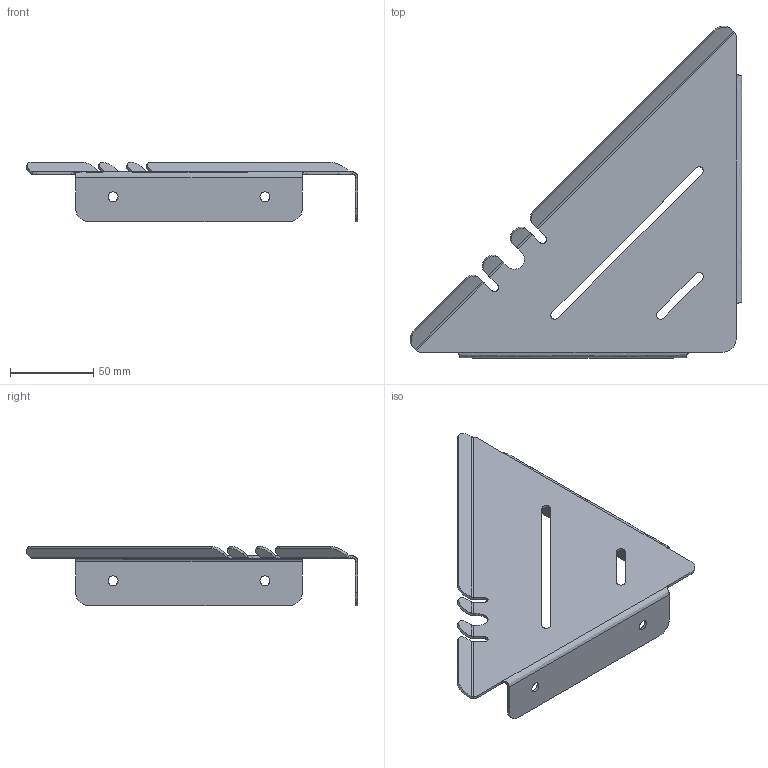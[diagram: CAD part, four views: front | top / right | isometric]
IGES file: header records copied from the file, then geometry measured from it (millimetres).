
Start section: IGES file generated by C3D Converter 1.5 translator by C3D Labs., translator version IGESOUT-5.1.
Global section: file name: D:\×åðòåæè èçäåëèé Âàííà 2023\Ïîëêè Simple Íîâûå\3D\×åðòåæè 22.07.2023\3D\SIMPLE_2_CORNER_KR.igs; preprocessor: 1.0; author: a.kalenyk83@gmail.com; organization: unknown; date: -17770622:110926; units: millimetre
Bounding box: 199.88 x 199.88 x 35.77 mm (x, y, z)
Volume: 42971.9 mm3; surface area: 59225.8 mm2
Topology: 1 solids, 1 shells, 103 faces, 255 edges, 154 vertices
Faces by surface type: bspline 62, revolution 41
